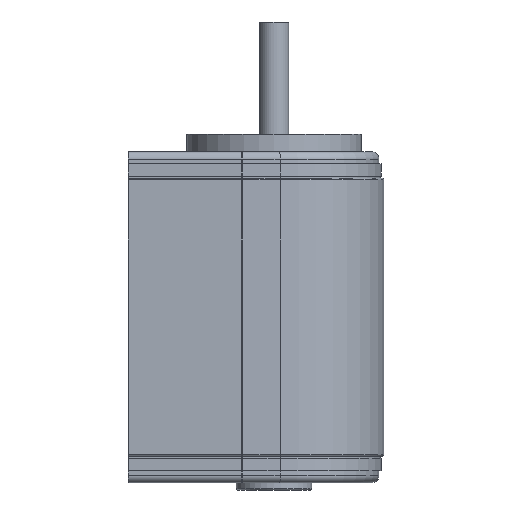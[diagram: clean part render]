
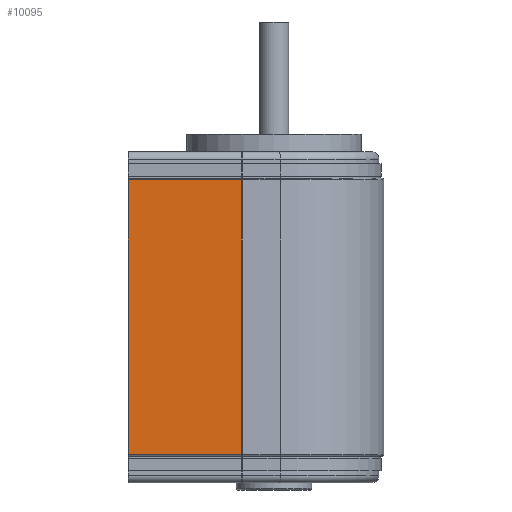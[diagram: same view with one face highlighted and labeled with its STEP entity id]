
A CAD part, front view. The second image highlights one B-rep face of the part: STEP entity #10095.
In plain terms, the highlighted planar face has unit normal (0, -1, 0).
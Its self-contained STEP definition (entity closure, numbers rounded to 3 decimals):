
#572 = CARTESIAN_POINT ( 'NONE',  ( -22.259, -76.7, 94.25 ) ) ;
#584 = CARTESIAN_POINT ( 'NONE',  ( -100., -76.7, 94.25 ) ) ;
#899 = VECTOR ( 'NONE', #5709, 1000. ) ;
#973 = VERTEX_POINT ( 'NONE', #2106 ) ;
#1010 = LINE ( 'NONE', #584, #7456 ) ;
#1024 = ORIENTED_EDGE ( 'NONE', *, *, #9237, .T. ) ;
#1304 = VERTEX_POINT ( 'NONE', #3011 ) ;
#2106 = CARTESIAN_POINT ( 'NONE',  ( -22.259, -76.7, 94.25 ) ) ;
#2371 = DIRECTION ( 'NONE',  ( -1., 0., 0. ) ) ;
#2936 = EDGE_LOOP ( 'NONE', ( #7641, #5820, #8285, #1024 ) ) ;
#3011 = CARTESIAN_POINT ( 'NONE',  ( -22.259, -76.7, -94.25 ) ) ;
#4588 = VERTEX_POINT ( 'NONE', #6419 ) ;
#4661 = FACE_OUTER_BOUND ( 'NONE', #2936, .T. ) ;
#5709 = DIRECTION ( 'NONE',  ( -1., 0., 0. ) ) ;
#5820 = ORIENTED_EDGE ( 'NONE', *, *, #10737, .F. ) ;
#6229 = VECTOR ( 'NONE', #6478, 1000. ) ;
#6270 = VECTOR ( 'NONE', #11747, 1000. ) ;
#6419 = CARTESIAN_POINT ( 'NONE',  ( -100., -76.7, 94.25 ) ) ;
#6478 = DIRECTION ( 'NONE',  ( 0., 0., -1. ) ) ;
#6628 = AXIS2_PLACEMENT_3D ( 'NONE', #9948, #10984, #2371 ) ;
#7185 = PLANE ( 'NONE',  #6628 ) ;
#7456 = VECTOR ( 'NONE', #11758, 1000. ) ;
#7641 = ORIENTED_EDGE ( 'NONE', *, *, #11845, .F. ) ;
#8198 = EDGE_CURVE ( 'NONE', #973, #4588, #10484, .T. ) ;
#8250 = CARTESIAN_POINT ( 'NONE',  ( -22.259, -76.7, 94.25 ) ) ;
#8285 = ORIENTED_EDGE ( 'NONE', *, *, #8198, .T. ) ;
#9237 = EDGE_CURVE ( 'NONE', #4588, #11480, #1010, .T. ) ;
#9371 = LINE ( 'NONE', #11839, #899 ) ;
#9948 = CARTESIAN_POINT ( 'NONE',  ( -22.259, -76.7, 94.25 ) ) ;
#10095 = ADVANCED_FACE ( 'NONE', ( #4661 ), #7185, .F. ) ;
#10484 = LINE ( 'NONE', #572, #6270 ) ;
#10737 = EDGE_CURVE ( 'NONE', #973, #1304, #10926, .T. ) ;
#10926 = LINE ( 'NONE', #8250, #6229 ) ;
#10972 = CARTESIAN_POINT ( 'NONE',  ( -100., -76.7, -94.25 ) ) ;
#10984 = DIRECTION ( 'NONE',  ( 0., 1., 0. ) ) ;
#11480 = VERTEX_POINT ( 'NONE', #10972 ) ;
#11747 = DIRECTION ( 'NONE',  ( -1., 0., 0. ) ) ;
#11758 = DIRECTION ( 'NONE',  ( 0., 0., -1. ) ) ;
#11839 = CARTESIAN_POINT ( 'NONE',  ( -22.259, -76.7, -94.25 ) ) ;
#11845 = EDGE_CURVE ( 'NONE', #1304, #11480, #9371, .T. ) ;
